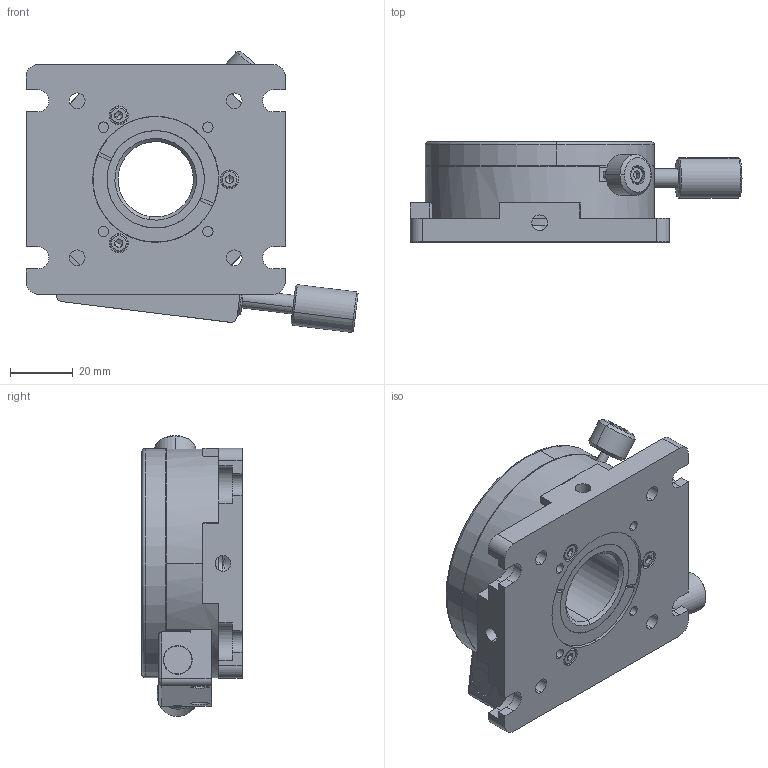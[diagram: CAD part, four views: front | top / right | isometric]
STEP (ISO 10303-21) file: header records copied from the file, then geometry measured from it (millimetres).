
FILE_DESCRIPTION (( 'STEP AP203' ), '1' );
FILE_NAME ('7SRM173Ðý×ªÌ¨.STEP', '2021-09-13T01:08:42', ( '' ), ( '' ), 'SwSTEP 2.0', 'SolidWorks 2018', '' );
FILE_SCHEMA (( 'CONFIG_CONTROL_DESIGN' ));
Length unit declared in the file: millimetre
Products named in the file (1): 7SRM173唅蛌怢
Bounding box: 105.72 x 31.92 x 89.46 mm (x, y, z)
Volume: 121750.6 mm3; surface area: 66688.8 mm2
Topology: 23 solids, 23 shells, 589 faces, 1461 edges, 927 vertices
Faces by surface type: cylinder 263, plane 239, cone 65, torus 16, sphere 6
Entity records: 18190 total; most frequent: CARTESIAN_POINT 3544, DIRECTION 3245, ORIENTED_EDGE 2868, EDGE_CURVE 1434, AXIS2_PLACEMENT_3D 1261, VERTEX_POINT 922, EDGE_LOOP 728, LINE 723
